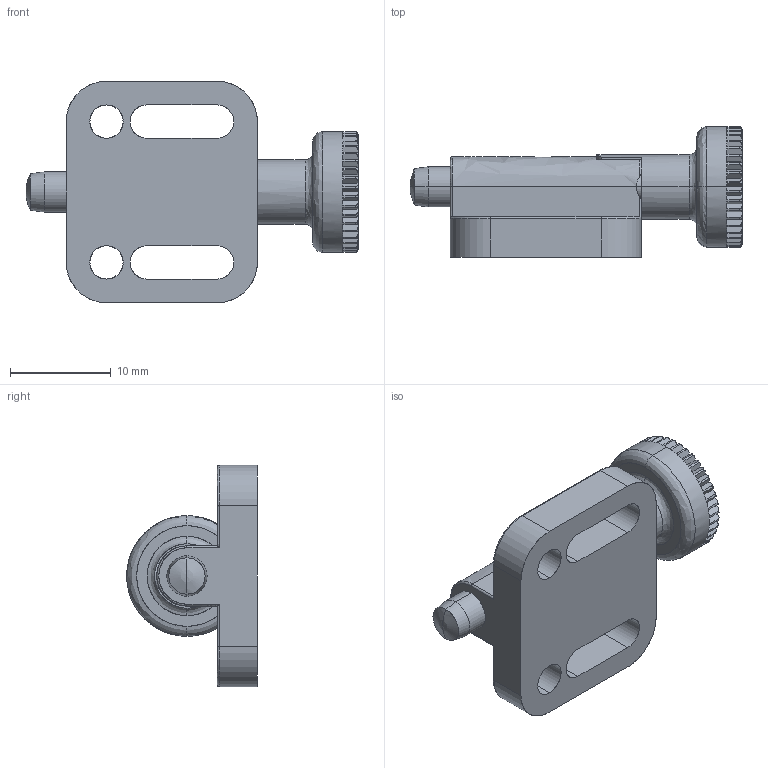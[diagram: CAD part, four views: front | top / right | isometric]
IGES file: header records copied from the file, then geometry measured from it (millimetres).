
Start section: SolidWorks IGES file using analytic representation for surfaces
Global section: file name: C:\HEMSIDA\cad\SLDPRT_2007\gn417\\gn417c_4.igs; native system: SolidWorks 2007; preprocessor: SolidWorks 2007; author: Administrator; date: 070919.153010; units: millimetre
Bounding box: 33 x 13 x 22 mm (x, y, z)
Surface area: 2475.5 mm2 (no closed solid volume)
Topology: 0 solids, 0 shells, 249 faces, 2725 edges, 2722 vertices
Faces by surface type: bspline 204, revolution 45
